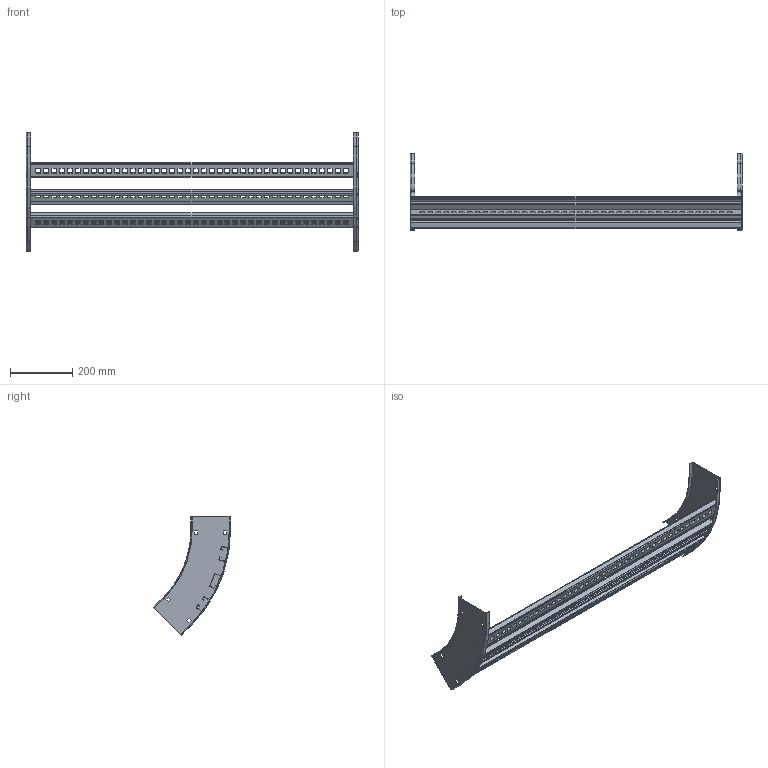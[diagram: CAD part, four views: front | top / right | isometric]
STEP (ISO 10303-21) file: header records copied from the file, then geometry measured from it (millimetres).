
FILE_DESCRIPTION((''),'2;1');
FILE_NAME('AUF542VVI4512_ASM','2010-01-28T',('erouzier'),(''),'PRO/ENGINEER BY PARAMETRIC TECHNOLOGY CORPORATION, 2008510','PRO/ENGINEER BY PARAMETRIC TECHNOLOGY CORPORATION, 2008510','');
FILE_SCHEMA(('CONFIG_CONTROL_DESIGN'));
Length unit declared in the file: inch
Products named in the file (3): CDS001417_5_45_12; CDS002159L42-P; AUF542VVI4512_ASM
Assembly tree (5 placements, depth 2):
  AUF542VVI4512_ASM
    CDS001417_5_45_12  x2
    CDS002159L42-P  x3
Bounding box: 1070.91 x 248.77 x 381.96 mm (x, y, z)
Volume: 647066.3 mm3; surface area: 939496 mm2
Topology: 5 solids, 5 shells, 1166 faces, 3404 edges, 2248 vertices
Faces by surface type: plane 621, cylinder 537, torus 8
Entity records: 13752 total; most frequent: DIRECTION 2382, CARTESIAN_POINT 2372, ORIENTED_EDGE 2360, EDGE_CURVE 1180, VECTOR 810, LINE 810, AXIS2_PLACEMENT_3D 786, VERTEX_POINT 776
